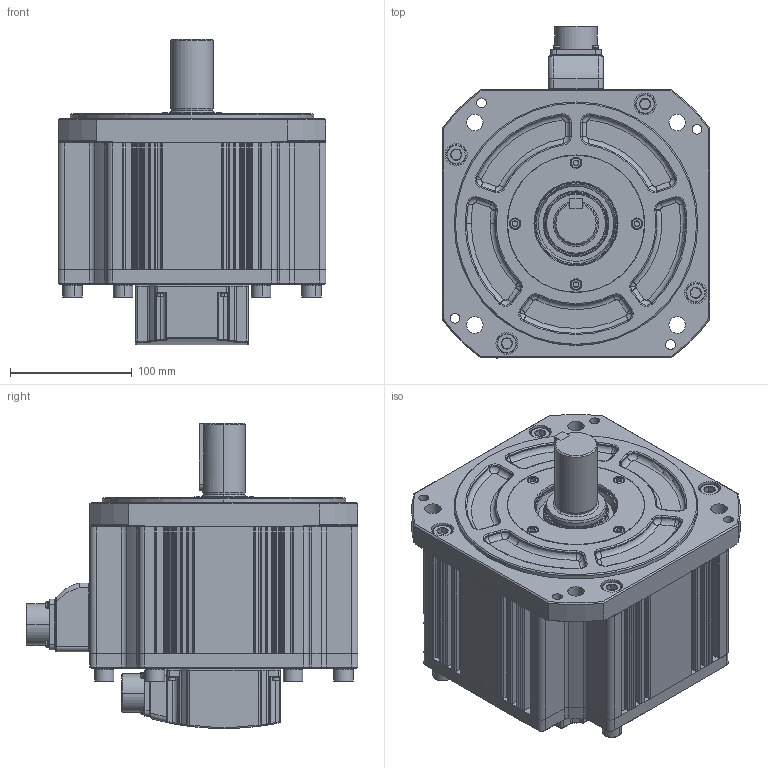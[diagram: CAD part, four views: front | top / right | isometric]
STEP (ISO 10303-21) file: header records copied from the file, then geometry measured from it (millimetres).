
FILE_DESCRIPTION (( 'STEP AP214' ), '1' );
FILE_NAME ('FM22GA005-1G02_Out Line(APM-FG35D_K1,FG30G_K1,FG20M_K1).STEP', '2019-07-10T07:42:54', ( '' ), ( '' ), 'SwSTEP 2.0', 'SolidWorks 2011', '' );
FILE_SCHEMA (( 'AUTOMOTIVE_DESIGN' ));
Length unit declared in the file: millimetre
Products named in the file (1): FM22GA005-1G02_Out Line(APM-FG35D_K1,FG30G_K1,FG20M_K1)
Bounding box: 220 x 272.5 x 250.5 mm (x, y, z)
Volume: 6275454.9 mm3; surface area: 599728.9 mm2
Topology: 59 solids, 59 shells, 2146 faces, 5335 edges, 3375 vertices
Faces by surface type: cylinder 842, plane 721, cone 279, torus 159, bspline 145
Entity records: 96529 total; most frequent: CARTESIAN_POINT 20807, DIRECTION 11091, ORIENTED_EDGE 10530, EDGE_CURVE 5265, AXIS2_PLACEMENT_3D 4299, VERTEX_POINT 3375, LINE 2493, VECTOR 2493
